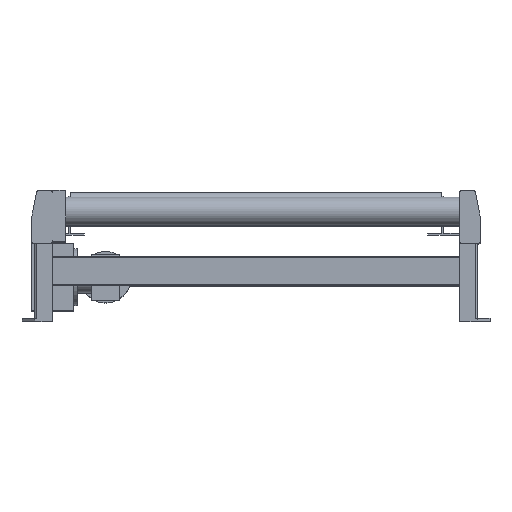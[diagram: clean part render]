
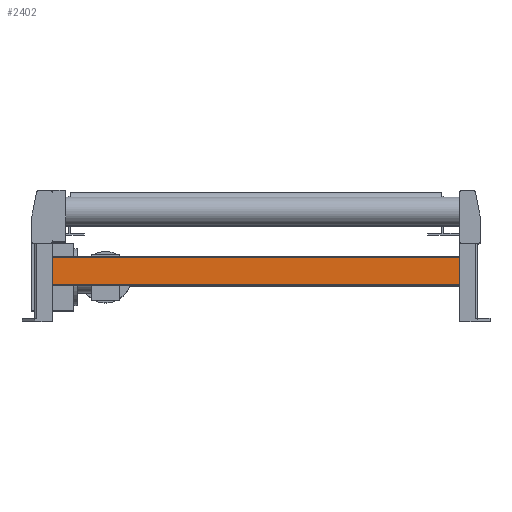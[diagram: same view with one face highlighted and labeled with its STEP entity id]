
A CAD part, top view. The second image highlights one B-rep face of the part: STEP entity #2402.
In plain terms, the highlighted planar face has unit normal (0, 0, 1).
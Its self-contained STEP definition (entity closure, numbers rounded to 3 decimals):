
#2277=CARTESIAN_POINT('',(-575.,-37.,-185.));
#2278=VERTEX_POINT('',#2277);
#2279=CARTESIAN_POINT('',(-575.,-120.0,-185.));
#2280=VERTEX_POINT('',#2279);
#2281=CARTESIAN_POINT('',(-575.,-37.,-185.));
#2282=DIRECTION('',(0.0,-1.0,0.0));
#2283=VECTOR('',#2282,83.0);
#2284=LINE('',#2281,#2283);
#2285=EDGE_CURVE('',#2278,#2280,#2284,.T.);
#2372=CARTESIAN_POINT('',(575.,-120.0,-185.));
#2373=DIRECTION('',(0.0,0.0,1.0));
#2374=DIRECTION('',(0.0,1.0,0.0));
#2375=AXIS2_PLACEMENT_3D('',#2372,#2373,#2374);
#2376=PLANE('',#2375);
#2377=CARTESIAN_POINT('',(575.,-37.,-185.));
#2378=VERTEX_POINT('',#2377);
#2379=CARTESIAN_POINT('',(575.,-120.0,-185.));
#2380=VERTEX_POINT('',#2379);
#2381=CARTESIAN_POINT('',(575.,-37.,-185.));
#2382=DIRECTION('',(0.0,-1.0,0.0));
#2383=VECTOR('',#2382,83.0);
#2384=LINE('',#2381,#2383);
#2385=EDGE_CURVE('',#2378,#2380,#2384,.T.);
#2386=ORIENTED_EDGE('',*,*,#2385,.F.);
#2387=CARTESIAN_POINT('',(575.,-37.,-185.));
#2388=DIRECTION('',(-1.0,0.0,0.0));
#2389=VECTOR('',#2388,1150.0);
#2390=LINE('',#2387,#2389);
#2391=EDGE_CURVE('',#2378,#2278,#2390,.T.);
#2392=ORIENTED_EDGE('',*,*,#2391,.T.);
#2393=ORIENTED_EDGE('',*,*,#2285,.T.);
#2394=CARTESIAN_POINT('',(575.,-120.0,-185.));
#2395=DIRECTION('',(-1.0,0.0,0.0));
#2396=VECTOR('',#2395,1150.0);
#2397=LINE('',#2394,#2396);
#2398=EDGE_CURVE('',#2380,#2280,#2397,.T.);
#2399=ORIENTED_EDGE('',*,*,#2398,.F.);
#2400=EDGE_LOOP('',(#2386,#2392,#2393,#2399));
#2401=FACE_OUTER_BOUND('',#2400,.T.);
#2402=ADVANCED_FACE('',(#2401),#2376,.T.);
